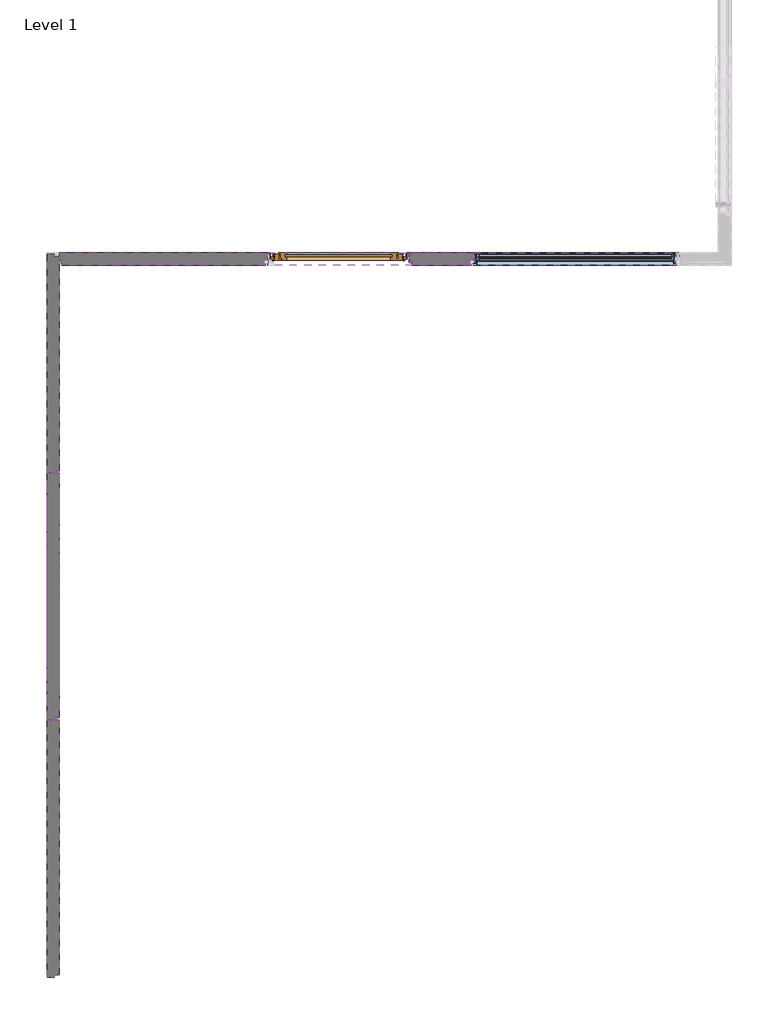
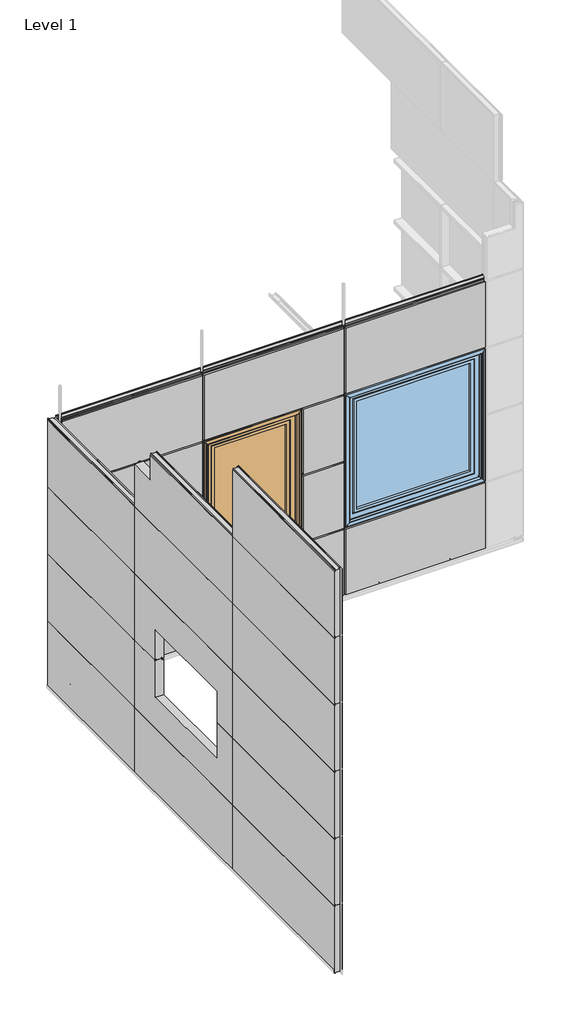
# One storey, part 1 of 8: 28 plates, 22 members, 1 door, 1 window.
"""IFC4 building model written with IfcOpenShell, lengths in millimetres."""

from ifc_helpers import new_model, si_unit, point, frame, frame_2d, origin, place, context, project, spatial, polyline, circle_curve, trimmed, segment, composite_curve, outline, extrude, faceted_brep, transform, mapped, element, save
from components import window_2f2466e1, window_c7373859, window_996190e2, rectangular_mullion_dd22ac08, qb_typ_1_c7bdcc42, qb_typ_1_3ef9bbf9, qb_typ_2_6b1fd04e, qb_typ_2_98d51a64, qb_typ_3_9fe7e425, qb_typ_3_735e8f04, qb_typ_3_2d20ebb0, tr_empty_empty_edf3b101, window_7dbde55a, window_ffd93646, window_a3d85fab, window_884a3d52

model = new_model("IFC4")

# Units and contexts
model_context = context("Model", 3, world=origin())
ifc_project = project(units=[si_unit("LENGTHUNIT", "METRE", prefix="MILLI")], contexts=[model_context])

# Site, building, storey
site = spatial("IfcSite", under=ifc_project)
building = spatial("IfcBuilding", under=site)
storey = spatial("IfcBuildingStorey", under=building, Name="Level 1", Elevation=0.0)

# Door
placement = place(None, origin())
window_shape = window_2f2466e1(model_context)
window_2_shape = window_c7373859(model_context)
window_3_shape = window_996190e2(model_context)
element("IfcDoor", 1, ObjectType="QO-H-QB_Door Module : Window", at=placement, inside=storey, context=model_context, shape_type="MappedRepresentation", body=[
    mapped(window_shape, transform((-3815.5000003, -12000.1, 150.0), x_axis=(-1.0, 0.0, 0.0), y_axis=(0.0, -1.0, 0.0), z_axis=(0.0, 0.0, 1.0))),
    mapped(window_2_shape, transform((-3815.5000003, -12000.1, 150.0), x_axis=(-1.0, 0.0, 0.0), y_axis=(0.0, -1.0, 0.0), z_axis=(0.0, 0.0, 1.0))),
    mapped(window_3_shape, transform((-3815.5000003, -12000.1, 150.0), x_axis=(-1.0, 0.0, 0.0), y_axis=(0.0, -1.0, 0.0), z_axis=(0.0, 0.0, 1.0))),
])

# Members
element("IfcMember", 2, ObjectType="Rectangular Mullion : QO-H-01_01 Joint", at=placement, inside=storey, context=model_context, shape_type="SweptSolid", body=[
    extrude(outline(composite_curve([segment(polyline([(-6563.6160807, -14008.6475876), (-6563.6160807, -14010.1626133), (-6564.9759409, -14008.3497844), (-6565.7759409, -14008.3497844), (-6565.7759409, -14010.3513097), (-6563.3171532, -14010.3513097), (-6563.3171532, -14009.2830771), (-6555.5392088, -14009.2830771)]), True, "CONTINUOUS"), segment(trimmed(circle_curve(frame_2d((-6555.5150145, -14009.7824538)), 0.4999625), [point((-6555.5392088, -14009.2830771))], [point((-6555.0150521, -14009.7824538))], False, "CARTESIAN"), True, "CONTINUOUS"), segment(polyline([(-6555.0150521, -14009.7824538), (-6555.0150521, -14020.4962599), (-6565.1903782, -14020.4962599)]), True, "CONTINUOUS"), segment(trimmed(circle_curve(frame_2d((-6565.1903782, -14019.8962599)), 0.6), [point((-6565.1903782, -14020.4962599))], [point((-6565.7903782, -14019.8962599))], False, "CARTESIAN"), True, "CONTINUOUS"), segment(polyline([(-6565.7903782, -14019.8962599), (-6565.7903782, -14014.3577362), (-6568.6058209, -14014.3577362), (-6568.6058209, -14016.9563372), (-6572.8493824, -14015.4175879), (-6569.3004499, -14012.3943655), (-6569.3004499, -14003.6008097), (-6572.8493824, -14000.5775874), (-6568.6058209, -13999.038838), (-6568.6058209, -14001.637439), (-6565.7903782, -14001.637439), (-6565.7903782, -13996.0989153)]), True, "CONTINUOUS"), segment(trimmed(circle_curve(frame_2d((-6565.1903782, -13996.0989153)), 0.6), [point((-6565.7903782, -13996.0989153))], [point((-6565.1903782, -13995.4989153))], False, "CARTESIAN"), True, "CONTINUOUS"), segment(polyline([(-6565.1903782, -13995.4989153), (-6555.0150521, -13995.4989153), (-6555.0150521, -14006.2127214)]), True, "CONTINUOUS"), segment(trimmed(circle_curve(frame_2d((-6555.5150145, -14006.2127214)), 0.4999625), [point((-6555.0150521, -14006.2127214))], [point((-6555.5392088, -14006.7120981))], False, "CARTESIAN"), True, "CONTINUOUS"), segment(polyline([(-6555.5392088, -14006.7120981), (-6563.3171532, -14006.7120981), (-6563.3171532, -14005.6438655), (-6565.7759409, -14005.6438655), (-6565.7759409, -14007.6453908), (-6564.9759409, -14007.6453908), (-6563.6160807, -14005.8325619), (-6563.6160807, -14007.3475876), (-6554.5027714, -14007.3475876), (-6554.5027714, -13999.6794739), (-6553.5783624, -13998.1474985)]), True, "CONTINUOUS"), segment(trimmed(circle_curve(frame_2d((-6553.3129397, -13998.3076572)), 0.31), [point((-6553.5783624, -13998.1474985))], [point((-6553.0029397, -13998.3076572))], False, "CARTESIAN"), True, "CONTINUOUS"), segment(polyline([(-6553.0029397, -13998.3076572), (-6553.0029397, -14017.6876801)]), True, "CONTINUOUS"), segment(trimmed(circle_curve(frame_2d((-6553.3129397, -14017.6876801)), 0.31), [point((-6553.0029397, -14017.6876801))], [point((-6553.5783624, -14017.8478388))], False, "CARTESIAN"), True, "CONTINUOUS"), segment(polyline([(-6553.5783624, -14017.8478388), (-6554.5027714, -14016.3158634), (-6554.5027714, -14008.6475876), (-6563.6160807, -14008.6475876)]), True, "CONTINUOUS")], self_intersect=False)), frame((0.0, 0.0, 4150.0), z_axis=(0.0, 0.0, 1.0), x_axis=(1.0, 0.0, 0.0)), (0.0, 0.0, 1.0), 620.0),
])
rectangular_mullion_shape = rectangular_mullion_dd22ac08(model_context)
element("IfcMember", 3, ObjectType="Rectangular Mullion : QO-H-01_01 Joint", at=placement, inside=storey, context=model_context, shape_type="MappedRepresentation", body=[
    mapped(rectangular_mullion_shape, transform((-6529.0000002, -14008.0, 150.0), x_axis=(0.0, -1.0, 0.0), y_axis=(-1.0, 0.0, 0.0), z_axis=(0.0, 0.0, -1.0))),
])
element("IfcMember", 4, ObjectType="Rectangular Mullion : QO-H-01_01 Joint", at=placement, inside=storey, context=model_context, shape_type="MappedRepresentation", body=[
    mapped(rectangular_mullion_shape, transform((-4515.5000003, -12000.1, 150.0), x_axis=(-1.0, 0.0, 0.0), y_axis=(0.0, 1.0, 0.0), z_axis=(0.0, 0.0, -1.0))),
])
element("IfcMember", 5, ObjectType="Rectangular Mullion : QO-H-01_01 Joint", at=placement, inside=storey, context=model_context, shape_type="MappedRepresentation", body=[
    mapped(rectangular_mullion_shape, transform((-2515.5000003, -12000.1, 150.0), x_axis=(-1.0, 0.0, 0.0), y_axis=(0.0, 1.0, 0.0), z_axis=(0.0, 0.0, -1.0))),
])
element("IfcMember", 6, ObjectType="Rectangular Mullion : QO-H-01_01 Joint", at=placement, inside=storey, context=model_context, shape_type="MappedRepresentation", body=[
    mapped(rectangular_mullion_shape, transform((-3115.5000003, -12000.1, 150.0), x_axis=(-1.0, 0.0, 0.0), y_axis=(0.0, 1.0, 0.0), z_axis=(0.0, 0.0, -1.0))),
])
element("IfcMember", 7, ObjectType="Rectangular Mullion : QO-H-01_01 Joint", at=placement, inside=storey, context=model_context, shape_type="MappedRepresentation", body=[
    mapped(rectangular_mullion_shape, transform((-6529.0000002, -16405.0, 150.0), x_axis=(0.0, -1.0, 0.0), y_axis=(-1.0, 0.0, 0.0), z_axis=(0.0, 0.0, -1.0))),
])
element("IfcMember", 8, ObjectType="Rectangular Mullion : QO-H-01_01 Joint", at=placement, inside=storey, context=model_context, shape_type="MappedRepresentation", body=[
    mapped(rectangular_mullion_shape, transform((-6529.0000002, -14008.0, 1150.0), x_axis=(0.0, -1.0, 0.0), y_axis=(-1.0, 0.0, 0.0), z_axis=(0.0, 0.0, -1.0))),
])
element("IfcMember", 9, ObjectType="Rectangular Mullion : QO-H-01_01 Joint", at=placement, inside=storey, context=model_context, shape_type="MappedRepresentation", body=[
    mapped(rectangular_mullion_shape, transform((-6529.0000002, -14008.0, 2150.0), x_axis=(0.0, -1.0, 0.0), y_axis=(-1.0, 0.0, 0.0), z_axis=(0.0, 0.0, -1.0))),
])
element("IfcMember", 10, ObjectType="Rectangular Mullion : QO-H-01_01 Joint", at=placement, inside=storey, context=model_context, shape_type="MappedRepresentation", body=[
    mapped(rectangular_mullion_shape, transform((-6529.0000002, -14008.0, 3150.0), x_axis=(0.0, -1.0, 0.0), y_axis=(-1.0, 0.0, 0.0), z_axis=(0.0, 0.0, -1.0))),
])
element("IfcMember", 11, ObjectType="Rectangular Mullion : QO-H-01_01 Joint", at=placement, inside=storey, context=model_context, shape_type="MappedRepresentation", body=[
    mapped(rectangular_mullion_shape, transform((-4515.5000003, -12000.1, 1150.0), x_axis=(-1.0, 0.0, 0.0), y_axis=(0.0, 1.0, 0.0), z_axis=(0.0, 0.0, -1.0))),
])
element("IfcMember", 12, ObjectType="Rectangular Mullion : QO-H-01_01 Joint", at=placement, inside=storey, context=model_context, shape_type="MappedRepresentation", body=[
    mapped(rectangular_mullion_shape, transform((-4515.5000003, -12000.1, 2150.0), x_axis=(-1.0, 0.0, 0.0), y_axis=(0.0, 1.0, 0.0), z_axis=(0.0, 0.0, -1.0))),
])
element("IfcMember", 13, ObjectType="Rectangular Mullion : QO-H-01_01 Joint", at=placement, inside=storey, context=model_context, shape_type="MappedRepresentation", body=[
    mapped(rectangular_mullion_shape, transform((-4515.5000003, -12000.1, 3150.0), x_axis=(-1.0, 0.0, 0.0), y_axis=(0.0, 1.0, 0.0), z_axis=(0.0, 0.0, -1.0))),
])
element("IfcMember", 14, ObjectType="Rectangular Mullion : QO-H-01_01 Joint", at=placement, inside=storey, context=model_context, shape_type="MappedRepresentation", body=[
    mapped(rectangular_mullion_shape, transform((-2515.5000003, -12000.1, 1150.0), x_axis=(-1.0, 0.0, 0.0), y_axis=(0.0, 1.0, 0.0), z_axis=(0.0, 0.0, -1.0))),
])
element("IfcMember", 15, ObjectType="Rectangular Mullion : QO-H-01_01 Joint", at=placement, inside=storey, context=model_context, shape_type="MappedRepresentation", body=[
    mapped(rectangular_mullion_shape, transform((-2515.5000003, -12000.1, 2150.0), x_axis=(-1.0, 0.0, 0.0), y_axis=(0.0, 1.0, 0.0), z_axis=(0.0, 0.0, -1.0))),
])
element("IfcMember", 16, ObjectType="Rectangular Mullion : QO-H-01_01 Joint", at=placement, inside=storey, context=model_context, shape_type="MappedRepresentation", body=[
    mapped(rectangular_mullion_shape, transform((-2515.5000003, -12000.1, 3150.0), x_axis=(-1.0, 0.0, 0.0), y_axis=(0.0, 1.0, 0.0), z_axis=(0.0, 0.0, -1.0))),
])
element("IfcMember", 17, ObjectType="Rectangular Mullion : QO-H-01_01 Joint", at=placement, inside=storey, context=model_context, shape_type="MappedRepresentation", body=[
    mapped(rectangular_mullion_shape, transform((-3115.5000003, -12000.1, 1150.0), x_axis=(-1.0, 0.0, 0.0), y_axis=(0.0, 1.0, 0.0), z_axis=(0.0, 0.0, -1.0))),
])
element("IfcMember", 18, ObjectType="Rectangular Mullion : QO-H-01_01 Joint", at=placement, inside=storey, context=model_context, shape_type="MappedRepresentation", body=[
    mapped(rectangular_mullion_shape, transform((-6529.0000002, -16405.0, 1150.0), x_axis=(0.0, -1.0, 0.0), y_axis=(-1.0, 0.0, 0.0), z_axis=(0.0, 0.0, -1.0))),
])
element("IfcMember", 19, ObjectType="Rectangular Mullion : QO-H-01_01 Joint", at=placement, inside=storey, context=model_context, shape_type="MappedRepresentation", body=[
    mapped(rectangular_mullion_shape, transform((-6529.0000002, -16405.0, 2150.0), x_axis=(0.0, -1.0, 0.0), y_axis=(-1.0, 0.0, 0.0), z_axis=(0.0, 0.0, -1.0))),
])
element("IfcMember", 20, ObjectType="Rectangular Mullion : QO-H-01_01 Joint", at=placement, inside=storey, context=model_context, shape_type="MappedRepresentation", body=[
    mapped(rectangular_mullion_shape, transform((-6529.0000002, -16405.0, 3150.0), x_axis=(0.0, -1.0, 0.0), y_axis=(-1.0, 0.0, 0.0), z_axis=(0.0, 0.0, -1.0))),
])
element("IfcMember", 21, ObjectType="Rectangular Mullion : QO-H-01_01 Joint", at=placement, inside=storey, context=model_context, shape_type="MappedRepresentation", body=[
    mapped(rectangular_mullion_shape, transform((-6529.0000002, -16405.0, 4150.0), x_axis=(0.0, -1.0, 0.0), y_axis=(-1.0, 0.0, 0.0), z_axis=(0.0, 0.0, -1.0))),
])
element("IfcMember", 22, ObjectType="Rectangular Mullion : QO-H-01_01 Joint", at=placement, inside=storey, context=model_context, shape_type="MappedRepresentation", body=[
    mapped(rectangular_mullion_shape, transform((-3115.5000003, -12000.1, 2150.0), x_axis=(-1.0, 0.0, 0.0), y_axis=(0.0, 1.0, 0.0), z_axis=(0.0, 0.0, -1.0))),
])
element("IfcMember", 23, ObjectType="Rectangular Mullion : QO-H-01_01 Joint", at=placement, inside=storey, context=model_context, shape_type="MappedRepresentation", body=[
    mapped(rectangular_mullion_shape, transform((-6529.0000002, -16405.0, 5150.0), x_axis=(0.0, -1.0, 0.0), y_axis=(-1.0, 0.0, 0.0), z_axis=(0.0, 0.0, -1.0))),
])

# Plates
qb_typ_1_shape = qb_typ_1_c7bdcc42(model_context)
element("IfcPlate", 24, ObjectType="TR_C_H_QBISS_Panel : QB TYP 1", at=placement, inside=storey, context=model_context, shape_type="MappedRepresentation", body=[
    mapped(qb_typ_1_shape, transform((-1516.2500002, -12000.1, 150.0), x_axis=(-1.0, 0.0, 0.0), y_axis=(0.0, -1.0, 0.0), z_axis=(0.0, 0.0, 1.0))),
])
element("IfcPlate", 25, ObjectType="TR_C_H_QBISS_Panel : QB TYP 1", at=placement, inside=storey, context=model_context, shape_type="MappedRepresentation", body=[
    mapped(qb_typ_1_shape, transform((-1516.2500002, -12000.1, 3150.0), x_axis=(-1.0, 0.0, 0.0), y_axis=(0.0, -1.0, 0.0), z_axis=(0.0, 0.0, 1.0))),
])
qb_typ_1_2_shape = qb_typ_1_3ef9bbf9(model_context)
element("IfcPlate", 26, ObjectType="TR_C_H_QBISS_Panel : QB TYP 1", at=placement, inside=storey, context=model_context, shape_type="MappedRepresentation", body=[
    mapped(qb_typ_1_2_shape, transform((-3515.5000003, -12000.1, 3150.0), x_axis=(-1.0, 0.0, 0.0), y_axis=(0.0, -1.0, 0.0), z_axis=(0.0, 0.0, 1.0))),
])
element("IfcPlate", 27, ObjectType="TR_C_H_QBISS_Panel : QB TYP 2", at=placement, inside=storey, context=model_context, shape_type="SolidModel", body=[
    extrude(outline(polyline([(2144.5, -6553.0000002), (2144.5, -6554.4998318), (2137.7023593, -6554.4998318), (2137.7023593, -6556.9998294), (2138.5023593, -6556.9998294), (2138.5023593, -6557.799843), (2130.5023028, -6557.799843), (2130.5023028, -6556.9998294), (2131.3023028, -6556.9998294), (2131.3023028, -6554.4998318), (2124.5, -6554.4998318), (2124.5, -6553.0000002), (2144.5, -6553.0000002)])), frame((0.0, -16392.3, 0.0), z_axis=(0.0, 1.0, 0.0), x_axis=(0.0, 0.0, 1.0)), (0.0, 0.0, 1.0), 354.4),
    extrude(outline(polyline([(2144.5, -6553.0000002), (2144.5, -6554.4998318), (2137.7023593, -6554.4998318), (2137.7023593, -6556.9998294), (2138.5023593, -6556.9998294), (2138.5023593, -6557.799843), (2130.5023028, -6557.799843), (2130.5023028, -6556.9998294), (2131.3023028, -6556.9998294), (2131.3023028, -6554.4998318), (2124.5, -6554.4998318), (2124.5, -6553.0000002), (2144.5, -6553.0000002)])), frame((0.0, -14527.9, 0.0), z_axis=(0.0, 1.0, 0.0), x_axis=(0.0, 0.0, 1.0)), (0.0, 0.0, 1.0), 507.2),
    faceted_brep([(-6637.0000002, -16417.4, 2150.0), (-6637.0000002, -16417.4, 2160.0), (-6643.0000002, -16417.4, 2160.0), (-6643.0000002, -16417.4, 2142.0), (-6649.0000002, -16417.4, 2136.0), (-6649.0000002, -16417.4, 1142.0), (-6643.0000002, -16417.4, 1142.0), (-6643.0000002, -16417.4, 1163.0), (-6637.0000002, -16417.4, 1163.0), (-6637.0000002, -16417.4, 1150.0), (-6578.0000002, -16417.4, 1150.0), (-6578.0000002, -16417.4, 2150.0), (-6637.0000002, -14020.5, 1150.0), (-6637.0000002, -14020.5, 1163.0), (-6643.0000002, -14020.5, 1163.0), (-6643.0000002, -14020.5, 1142.0), (-6649.0000002, -14020.5, 1142.0), (-6649.0000002, -14020.5, 2136.0), (-6643.0000002, -14020.5, 2142.0), (-6643.0000002, -14020.5, 2160.0), (-6637.0000002, -14020.5, 2160.0), (-6637.0000002, -14020.5, 2150.0), (-6578.0000002, -14020.5, 2150.0), (-6578.0000002, -14020.5, 1150.0), (-6578.0000002, -14020.7, 1150.0), (-6568.0000002, -14020.7, 1150.0), (-6568.0000002, -16392.3, 1150.0), (-6578.0000002, -16392.3, 1150.0), (-6568.0000002, -14020.7, 1163.0), (-6568.0000002, -16392.3, 1163.0), (-6558.0000002, -14020.7, 1163.0), (-6558.0000002, -16392.3, 1163.0), (-6558.0000002, -14020.7, 1146.0), (-6558.0000002, -16392.3, 1146.0), (-6529.0000002, -14020.7, 1146.0), (-6529.0000002, -16392.3, 1146.0), (-6558.0000002, -16392.3, 2123.0), (-6529.0000002, -16392.3, 2123.0), (-6529.0000002, -16037.9, 2123.0), (-6558.0000002, -16037.9, 2123.0), (-6558.0000002, -16392.3, 2160.0), (-6558.0000002, -16037.9, 2160.0), (-6568.0000002, -16392.3, 2160.0), (-6568.0000002, -16037.9, 2160.0), (-6568.0000002, -16392.3, 2150.0), (-6568.0000002, -16037.9, 2150.0), (-6578.0000002, -16392.3, 2150.0), (-6637.0000002, -16037.9, 2150.0), (-6637.0000002, -16037.9, 2160.0), (-6643.0000002, -16037.9, 2160.0), (-6643.0000002, -16037.9, 2142.0), (-6649.0000002, -16037.9, 2136.0), (-6649.0000002, -16082.9, 2136.0), (-6649.0000002, -16037.9, 1595.0), (-6649.0000002, -14527.9, 1595.0), (-6649.0000002, -14527.9, 2136.0), (-6649.0000002, -14482.9, 2136.0), (-6578.0000002, -14020.7, 2150.0), (-6568.0000002, -14020.7, 2150.0), (-6568.0000002, -14020.7, 2160.0), (-6558.0000002, -14020.7, 2160.0), (-6558.0000002, -14020.7, 2123.0), (-6529.0000002, -14020.7, 2123.0), (-6529.0000002, -14527.9, 2123.0), (-6529.0000002, -14527.9, 1595.0), (-6529.0000002, -16037.9, 1595.0), (-6558.0000002, -14527.9, 2123.0), (-6558.0000002, -14527.9, 2160.0), (-6568.0000002, -14527.9, 2160.0), (-6568.0000002, -14527.9, 2150.0), (-6637.0000002, -14527.9, 2150.0), (-6637.0000002, -14527.9, 2160.0), (-6643.0000002, -14527.9, 2160.0), (-6643.0000002, -14527.9, 2142.0)], [[[0, 1, 2, 3, 4, 5, 6, 7, 8, 9, 10, 11]], [[12, 13, 14, 15, 16, 17, 18, 19, 20, 21, 22, 23]], [[10, 9, 12, 23, 24, 25, 26, 27]], [[26, 25, 28, 29]], [[29, 28, 30, 31]], [[31, 30, 32, 33]], [[33, 32, 34, 35]], [[36, 37, 38, 39]], [[40, 36, 39, 41]], [[42, 40, 41, 43]], [[44, 42, 43, 45]], [[0, 11, 46, 44, 45, 47]], [[1, 0, 47, 48]], [[2, 1, 48, 49]], [[3, 2, 49, 50]], [[4, 3, 50, 51, 52]], [[5, 4, 52, 51, 53, 54, 55, 56, 17, 16]], [[6, 5, 16, 15]], [[7, 6, 15, 14]], [[8, 7, 14, 13]], [[9, 8, 13, 12]], [[23, 22, 57, 24]], [[25, 24, 57, 58, 59, 60, 61, 62, 34, 32, 30, 28]], [[27, 26, 29, 31, 33, 35, 37, 36, 40, 42, 44, 46]], [[11, 10, 27, 46]], [[35, 34, 62, 63, 64, 65, 38, 37]], [[65, 53, 51, 50, 49, 48, 47, 45, 43, 41, 39, 38]], [[53, 65, 64, 54]], [[54, 64, 63, 66, 67, 68, 69, 70, 71, 72, 73, 55]], [[18, 17, 56, 55, 73]], [[62, 61, 66, 63]], [[61, 60, 67, 66]], [[60, 59, 68, 67]], [[59, 58, 69, 68]], [[22, 21, 70, 69, 58, 57]], [[21, 20, 71, 70]], [[20, 19, 72, 71]], [[19, 18, 73, 72]]]),
    extrude(outline(polyline([(-6578.0000002, -13995.5), (-6573.0000002, -13995.5), (-6573.0000002, -13996.3), (-6577.2000002, -13996.3), (-6577.2000002, -14020.7), (-6578.0000002, -14020.7), (-6578.0000002, -13995.5)])), frame((0.0, 0.0, 1204.0), z_axis=(0.0, 0.0, 1.0), x_axis=(1.0, 0.0, 0.0)), (0.0, 0.0, 1.0), 862.0),
])
element("IfcPlate", 28, ObjectType="TR_C_H_QBISS_Panel : QB TYP 2", at=placement, inside=storey, context=model_context, shape_type="SolidModel", body=[
    extrude(outline(polyline([(3144.5, -6553.0000002), (3144.5, -6554.4998318), (3137.7023593, -6554.4998318), (3137.7023593, -6556.9998294), (3138.5023593, -6556.9998294), (3138.5023593, -6557.799843), (3130.5023028, -6557.799843), (3130.5023028, -6556.9998294), (3131.3023028, -6556.9998294), (3131.3023028, -6554.4998318), (3124.5, -6554.4998318), (3124.5, -6553.0000002), (3144.5, -6553.0000002)])), frame((0.0, -16392.3, 0.0), z_axis=(0.0, 1.0, 0.0), x_axis=(0.0, 0.0, 1.0)), (0.0, 0.0, 1.0), 2371.6),
    faceted_brep([(-6637.0000002, -16417.4, 3150.0), (-6637.0000002, -16417.4, 3160.0), (-6643.0000002, -16417.4, 3160.0), (-6643.0000002, -16417.4, 3142.0), (-6649.0000002, -16417.4, 3136.0), (-6649.0000002, -16417.4, 2142.0), (-6643.0000002, -16417.4, 2142.0), (-6643.0000002, -16417.4, 2163.0), (-6637.0000002, -16417.4, 2163.0), (-6637.0000002, -16417.4, 2150.0), (-6578.0000002, -16417.4, 2150.0), (-6578.0000002, -16417.4, 3150.0), (-6637.0000002, -14020.5, 2150.0), (-6637.0000002, -14020.5, 2163.0), (-6643.0000002, -14020.5, 2163.0), (-6643.0000002, -14020.5, 2142.0), (-6649.0000002, -14020.5, 2142.0), (-6649.0000002, -14020.5, 3136.0), (-6643.0000002, -14020.5, 3142.0), (-6643.0000002, -14020.5, 3160.0), (-6637.0000002, -14020.5, 3160.0), (-6637.0000002, -14020.5, 3150.0), (-6578.0000002, -14020.5, 3150.0), (-6578.0000002, -14020.5, 2150.0), (-6637.0000002, -16037.9, 2150.0), (-6568.0000002, -16037.9, 2150.0), (-6568.0000002, -16392.3, 2150.0), (-6578.0000002, -16392.3, 2150.0), (-6568.0000002, -16392.3, 2163.0), (-6568.0000002, -16037.9, 2163.0), (-6558.0000002, -16392.3, 2163.0), (-6558.0000002, -16037.9, 2163.0), (-6558.0000002, -16392.3, 2146.0), (-6558.0000002, -16037.9, 2146.0), (-6529.0000002, -16392.3, 2146.0), (-6529.0000002, -16037.9, 2146.0), (-6529.0000002, -16392.3, 3123.0), (-6529.0000002, -14020.7, 3123.0), (-6558.0000002, -14020.7, 3123.0), (-6558.0000002, -16392.3, 3123.0), (-6558.0000002, -14020.7, 3160.0), (-6558.0000002, -16392.3, 3160.0), (-6568.0000002, -14020.7, 3160.0), (-6568.0000002, -16392.3, 3160.0), (-6568.0000002, -14020.7, 3150.0), (-6568.0000002, -16392.3, 3150.0), (-6578.0000002, -16392.3, 3150.0), (-6578.0000002, -14020.7, 3150.0), (-6649.0000002, -14482.9, 2142.0), (-6649.0000002, -14527.9, 2142.0), (-6649.0000002, -14527.9, 2605.0), (-6649.0000002, -16037.9, 2605.0), (-6649.0000002, -16037.9, 2142.0), (-6649.0000002, -16082.9, 2142.0), (-6643.0000002, -16037.9, 2142.0), (-6643.0000002, -16037.9, 2163.0), (-6637.0000002, -16037.9, 2163.0), (-6578.0000002, -14020.7, 2150.0), (-6568.0000002, -14020.7, 2150.0), (-6529.0000002, -14020.7, 2146.0), (-6558.0000002, -14020.7, 2146.0), (-6558.0000002, -14020.7, 2163.0), (-6568.0000002, -14020.7, 2163.0), (-6568.0000002, -14527.9, 2150.0), (-6637.0000002, -14527.9, 2150.0), (-6568.0000002, -14527.9, 2163.0), (-6558.0000002, -14527.9, 2163.0), (-6558.0000002, -14527.9, 2146.0), (-6529.0000002, -14527.9, 2146.0), (-6529.0000002, -16037.9, 2605.0), (-6529.0000002, -14527.9, 2605.0), (-6643.0000002, -14527.9, 2142.0), (-6643.0000002, -14527.9, 2163.0), (-6637.0000002, -14527.9, 2163.0)], [[[0, 1, 2, 3, 4, 5, 6, 7, 8, 9, 10, 11]], [[12, 13, 14, 15, 16, 17, 18, 19, 20, 21, 22, 23]], [[10, 9, 24, 25, 26, 27]], [[28, 26, 25, 29]], [[30, 28, 29, 31]], [[32, 30, 31, 33]], [[34, 32, 33, 35]], [[36, 37, 38, 39]], [[39, 38, 40, 41]], [[41, 40, 42, 43]], [[43, 42, 44, 45]], [[0, 11, 46, 45, 44, 47, 22, 21]], [[1, 0, 21, 20]], [[2, 1, 20, 19]], [[3, 2, 19, 18]], [[4, 3, 18, 17]], [[5, 4, 17, 16, 48, 49, 50, 51, 52, 53]], [[6, 5, 53, 52, 54]], [[7, 6, 54, 55]], [[8, 7, 55, 56]], [[9, 8, 56, 24]], [[23, 22, 47, 57]], [[58, 57, 47, 44, 42, 40, 38, 37, 59, 60, 61, 62]], [[27, 26, 28, 30, 32, 34, 36, 39, 41, 43, 45, 46]], [[11, 10, 27, 46]], [[12, 23, 57, 58, 63, 64]], [[58, 62, 65, 63]], [[62, 61, 66, 65]], [[61, 60, 67, 66]], [[60, 59, 68, 67]], [[59, 37, 36, 34, 35, 69, 70, 68]], [[50, 70, 69, 51]], [[51, 69, 35, 33, 31, 29, 25, 24, 56, 55, 54, 52]], [[70, 50, 49, 71, 72, 73, 64, 63, 65, 66, 67, 68]], [[13, 12, 64, 73]], [[16, 15, 71, 49, 48]], [[15, 14, 72, 71]], [[14, 13, 73, 72]]]),
    extrude(outline(polyline([(-6578.0000002, -13995.5), (-6573.0000002, -13995.5), (-6573.0000002, -13996.3), (-6577.2000002, -13996.3), (-6577.2000002, -14020.7), (-6578.0000002, -14020.7), (-6578.0000002, -13995.5)])), frame((0.0, 0.0, 2204.0), z_axis=(0.0, 0.0, 1.0), x_axis=(1.0, 0.0, 0.0)), (0.0, 0.0, 1.0), 862.0),
])
element("IfcPlate", 29, ObjectType="TR_C_H_QBISS_Panel : QB TYP 2", at=placement, inside=storey, context=model_context, shape_type="SolidModel", body=[
    extrude(outline(polyline([(5144.5, -6553.0000002), (5144.5, -6554.4998318), (5137.7023593, -6554.4998318), (5137.7023593, -6556.9998294), (5138.5023593, -6556.9998294), (5138.5023593, -6557.799843), (5130.5023028, -6557.799843), (5130.5023028, -6556.9998294), (5131.3023028, -6556.9998294), (5131.3023028, -6554.4998318), (5124.5, -6554.4998318), (5124.5, -6553.0000002), (5144.5, -6553.0000002)])), frame((0.0, -16392.3, 0.0), z_axis=(0.0, 1.0, 0.0), x_axis=(0.0, 0.0, 1.0)), (0.0, 0.0, 1.0), 1987.3),
    faceted_brep([(-6637.0000002, -16417.4, 5150.0), (-6637.0000002, -16417.4, 5160.0), (-6643.0000002, -16417.4, 5160.0), (-6643.0000002, -16417.4, 5142.0), (-6649.0000002, -16417.4, 5136.0), (-6649.0000002, -16417.4, 4142.0), (-6643.0000002, -16417.4, 4142.0), (-6643.0000002, -16417.4, 4163.0), (-6637.0000002, -16417.4, 4163.0), (-6637.0000002, -16417.4, 4150.0), (-6578.0000002, -16417.4, 4150.0), (-6578.0000002, -16417.4, 5150.0), (-6637.0000002, -14020.5, 4150.0), (-6637.0000002, -14020.5, 4163.0), (-6643.0000002, -14020.5, 4163.0), (-6643.0000002, -14020.5, 4142.0), (-6649.0000002, -14020.5, 4142.0), (-6649.0000002, -14020.5, 4770.0), (-6578.0000002, -14020.5, 4770.0), (-6578.0000002, -14020.5, 4150.0), (-6578.0000002, -14020.7, 4150.0), (-6568.0000002, -14020.7, 4150.0), (-6568.0000002, -16392.3, 4150.0), (-6578.0000002, -16392.3, 4150.0), (-6568.0000002, -14020.7, 4163.0), (-6568.0000002, -16392.3, 4163.0), (-6558.0000002, -14020.7, 4163.0), (-6558.0000002, -16392.3, 4163.0), (-6558.0000002, -14020.7, 4146.0), (-6558.0000002, -16392.3, 4146.0), (-6529.0000002, -14020.7, 4146.0), (-6529.0000002, -16392.3, 4146.0), (-6529.0000002, -14020.7, 4770.0), (-6529.0000002, -14405.0, 4770.0), (-6529.0000002, -14405.0, 5123.0), (-6529.0000002, -16392.3, 5123.0), (-6558.0000002, -16392.3, 5123.0), (-6558.0000002, -14405.0, 5123.0), (-6558.0000002, -16392.3, 5160.0), (-6558.0000002, -14405.0, 5160.0), (-6568.0000002, -16392.3, 5160.0), (-6568.0000002, -14405.0, 5160.0), (-6568.0000002, -16392.3, 5150.0), (-6568.0000002, -14405.0, 5150.0), (-6578.0000002, -16392.3, 5150.0), (-6637.0000002, -14405.0, 5150.0), (-6637.0000002, -14405.0, 5160.0), (-6643.0000002, -14405.0, 5160.0), (-6643.0000002, -14405.0, 5142.0), (-6649.0000002, -14405.0, 5136.0), (-6649.0000002, -14405.0, 4770.0), (-6578.0000002, -14020.7, 4770.0)], [[[0, 1, 2, 3, 4, 5, 6, 7, 8, 9, 10, 11]], [[12, 13, 14, 15, 16, 17, 18, 19]], [[10, 9, 12, 19, 20, 21, 22, 23]], [[22, 21, 24, 25]], [[25, 24, 26, 27]], [[27, 26, 28, 29]], [[29, 28, 30, 31]], [[31, 30, 32, 33, 34, 35]], [[36, 35, 34, 37]], [[38, 36, 37, 39]], [[40, 38, 39, 41]], [[42, 40, 41, 43]], [[0, 11, 44, 42, 43, 45]], [[1, 0, 45, 46]], [[2, 1, 46, 47]], [[3, 2, 47, 48]], [[4, 3, 48, 49]], [[5, 4, 49, 50, 17, 16]], [[6, 5, 16, 15]], [[7, 6, 15, 14]], [[8, 7, 14, 13]], [[9, 8, 13, 12]], [[20, 19, 18, 51]], [[21, 20, 51, 32, 30, 28, 26, 24]], [[23, 22, 25, 27, 29, 31, 35, 36, 38, 40, 42, 44]], [[11, 10, 23, 44]], [[33, 50, 49, 48, 47, 46, 45, 43, 41, 39, 37, 34]], [[50, 33, 32, 51, 18, 17]]]),
    extrude(outline(polyline([(-6578.0000002, -13995.5), (-6573.0000002, -13995.5), (-6573.0000002, -13996.3), (-6577.2000002, -13996.3), (-6577.2000002, -14020.7), (-6578.0000002, -14020.7), (-6578.0000002, -13995.5)])), frame((0.0, 0.0, 4204.0), z_axis=(0.0, 0.0, 1.0), x_axis=(1.0, 0.0, 0.0)), (0.0, 0.0, 1.0), 566.0),
])
qb_typ_2_shape = qb_typ_2_6b1fd04e(model_context)
element("IfcPlate", 30, ObjectType="TR_C_H_QBISS_Panel : QB TYP 2", at=placement, inside=storey, context=model_context, shape_type="MappedRepresentation", body=[
    mapped(qb_typ_2_shape, transform((-6529.0000002, -15206.5, 150.0), x_axis=(0.0, -1.0, 0.0), y_axis=(1.0, 0.0, 0.0), z_axis=(0.0, 0.0, 1.0))),
])
element("IfcPlate", 31, ObjectType="TR_C_H_QBISS_Panel : QB TYP 2", at=placement, inside=storey, context=model_context, shape_type="MappedRepresentation", body=[
    mapped(qb_typ_2_shape, transform((-6529.0000002, -15206.5, 3150.0), x_axis=(0.0, -1.0, 0.0), y_axis=(1.0, 0.0, 0.0), z_axis=(0.0, 0.0, 1.0))),
])
qb_typ_2_2_shape = qb_typ_2_98d51a64(model_context)
element("IfcPlate", 32, ObjectType="TR_C_H_QBISS_Panel : QB TYP 2", at=placement, inside=storey, context=model_context, shape_type="MappedRepresentation", body=[
    mapped(qb_typ_2_2_shape, transform((-6529.0000002, -17655.0, 150.0), x_axis=(0.0, -1.0, 0.0), y_axis=(1.0, 0.0, 0.0), z_axis=(0.0, 0.0, 1.0))),
])
element("IfcPlate", 33, ObjectType="TR_C_H_QBISS_Panel : QB TYP 2", at=placement, inside=storey, context=model_context, shape_type="MappedRepresentation", body=[
    mapped(qb_typ_2_2_shape, transform((-6529.0000002, -17655.0, 1150.0), x_axis=(0.0, -1.0, 0.0), y_axis=(1.0, 0.0, 0.0), z_axis=(0.0, 0.0, 1.0))),
])
element("IfcPlate", 34, ObjectType="TR_C_H_QBISS_Panel : QB TYP 2", at=placement, inside=storey, context=model_context, shape_type="MappedRepresentation", body=[
    mapped(qb_typ_2_2_shape, transform((-6529.0000002, -17655.0, 2150.0), x_axis=(0.0, -1.0, 0.0), y_axis=(1.0, 0.0, 0.0), z_axis=(0.0, 0.0, 1.0))),
])
element("IfcPlate", 35, ObjectType="TR_C_H_QBISS_Panel : QB TYP 2", at=placement, inside=storey, context=model_context, shape_type="MappedRepresentation", body=[
    mapped(qb_typ_2_2_shape, transform((-6529.0000002, -17655.0, 3150.0), x_axis=(0.0, -1.0, 0.0), y_axis=(1.0, 0.0, 0.0), z_axis=(0.0, 0.0, 1.0))),
])
element("IfcPlate", 36, ObjectType="TR_C_H_QBISS_Panel : QB TYP 2", at=placement, inside=storey, context=model_context, shape_type="MappedRepresentation", body=[
    mapped(qb_typ_2_2_shape, transform((-6529.0000002, -17655.0, 4150.0), x_axis=(0.0, -1.0, 0.0), y_axis=(1.0, 0.0, 0.0), z_axis=(0.0, 0.0, 1.0))),
])
element("IfcPlate", 37, ObjectType="TR_C_H_QBISS_Panel : QB TYP 2", at=placement, inside=storey, context=model_context, shape_type="MappedRepresentation", body=[
    mapped(qb_typ_2_2_shape, transform((-6529.0000002, -17655.0, 5150.0), x_axis=(0.0, -1.0, 0.0), y_axis=(1.0, 0.0, 0.0), z_axis=(0.0, 0.0, 1.0))),
])
qb_typ_3_shape = qb_typ_3_9fe7e425(model_context)
element("IfcPlate", 38, ObjectType="TR_C_H_QBISS_Panel : QB TYP 3", at=placement, inside=storey, context=model_context, shape_type="MappedRepresentation", body=[
    mapped(qb_typ_3_shape, transform((-6529.0000002, -12956.5, 150.0), x_axis=(0.0, -1.0, 0.0), y_axis=(1.0, 0.0, 0.0), z_axis=(0.0, 0.0, 1.0))),
])
element("IfcPlate", 39, ObjectType="TR_C_H_QBISS_Panel : QB TYP 3", at=placement, inside=storey, context=model_context, shape_type="MappedRepresentation", body=[
    mapped(qb_typ_3_shape, transform((-6529.0000002, -12956.5, 1150.0), x_axis=(0.0, -1.0, 0.0), y_axis=(1.0, 0.0, 0.0), z_axis=(0.0, 0.0, 1.0))),
])
element("IfcPlate", 40, ObjectType="TR_C_H_QBISS_Panel : QB TYP 3", at=placement, inside=storey, context=model_context, shape_type="MappedRepresentation", body=[
    mapped(qb_typ_3_shape, transform((-6529.0000002, -12956.5, 2150.0), x_axis=(0.0, -1.0, 0.0), y_axis=(1.0, 0.0, 0.0), z_axis=(0.0, 0.0, 1.0))),
])
element("IfcPlate", 41, ObjectType="TR_C_H_QBISS_Panel : QB TYP 3", at=placement, inside=storey, context=model_context, shape_type="MappedRepresentation", body=[
    mapped(qb_typ_3_shape, transform((-6529.0000002, -12956.5, 3150.0), x_axis=(0.0, -1.0, 0.0), y_axis=(1.0, 0.0, 0.0), z_axis=(0.0, 0.0, 1.0))),
])
qb_typ_3_2_shape = qb_typ_3_735e8f04(model_context)
element("IfcPlate", 42, ObjectType="TR_C_H_QBISS_Panel : QB TYP 3", at=placement, inside=storey, context=model_context, shape_type="MappedRepresentation", body=[
    mapped(qb_typ_3_2_shape, transform((-2815.5000003, -12000.1, 150.0), x_axis=(-1.0, 0.0, 0.0), y_axis=(0.0, -1.0, 0.0), z_axis=(0.0, 0.0, 1.0))),
])
element("IfcPlate", 43, ObjectType="TR_C_H_QBISS_Panel : QB TYP 3", at=placement, inside=storey, context=model_context, shape_type="MappedRepresentation", body=[
    mapped(qb_typ_3_2_shape, transform((-2815.5000003, -12000.1, 1150.0), x_axis=(-1.0, 0.0, 0.0), y_axis=(0.0, -1.0, 0.0), z_axis=(0.0, 0.0, 1.0))),
])
element("IfcPlate", 44, ObjectType="TR_C_H_QBISS_Panel : QB TYP 3", at=placement, inside=storey, context=model_context, shape_type="MappedRepresentation", body=[
    mapped(qb_typ_3_2_shape, transform((-2815.5000003, -12000.1, 2150.0), x_axis=(-1.0, 0.0, 0.0), y_axis=(0.0, -1.0, 0.0), z_axis=(0.0, 0.0, 1.0))),
])
qb_typ_3_3_shape = qb_typ_3_2d20ebb0(model_context)
element("IfcPlate", 45, ObjectType="TR_C_H_QBISS_Panel : QB TYP 3", at=placement, inside=storey, context=model_context, shape_type="MappedRepresentation", body=[
    mapped(qb_typ_3_3_shape, transform((-5516.0000002, -12000.1, 150.0), x_axis=(-1.0, 0.0, 0.0), y_axis=(0.0, -1.0, 0.0), z_axis=(0.0, 0.0, 1.0))),
])
element("IfcPlate", 46, ObjectType="TR_C_H_QBISS_Panel : QB TYP 3", at=placement, inside=storey, context=model_context, shape_type="MappedRepresentation", body=[
    mapped(qb_typ_3_3_shape, transform((-5516.0000002, -12000.1, 1150.0), x_axis=(-1.0, 0.0, 0.0), y_axis=(0.0, -1.0, 0.0), z_axis=(0.0, 0.0, 1.0))),
])
element("IfcPlate", 47, ObjectType="TR_C_H_QBISS_Panel : QB TYP 3", at=placement, inside=storey, context=model_context, shape_type="MappedRepresentation", body=[
    mapped(qb_typ_3_3_shape, transform((-5516.0000002, -12000.1, 2150.0), x_axis=(-1.0, 0.0, 0.0), y_axis=(0.0, -1.0, 0.0), z_axis=(0.0, 0.0, 1.0))),
])
element("IfcPlate", 48, ObjectType="TR_C_H_QBISS_Panel : QB TYP 3", at=placement, inside=storey, context=model_context, shape_type="MappedRepresentation", body=[
    mapped(qb_typ_3_3_shape, transform((-5516.0000002, -12000.1, 3150.0), x_axis=(-1.0, 0.0, 0.0), y_axis=(0.0, -1.0, 0.0), z_axis=(0.0, 0.0, 1.0))),
])
tr_empty_empty_shape = tr_empty_empty_edf3b101(model_context)
element("IfcPlate", 49, ObjectType="TR_EMPTY : EMPTY", at=placement, inside=storey, context=model_context, shape_type="MappedRepresentation", body=[
    mapped(tr_empty_empty_shape, transform((-258.5, -12000.1, 150.0), x_axis=(-1.0, 0.0, 0.0), y_axis=(0.0, -1.0, 0.0), z_axis=(0.0, 0.0, 1.0))),
])
element("IfcPlate", 50, ObjectType="TR_EMPTY : EMPTY", at=placement, inside=storey, context=model_context, shape_type="MappedRepresentation", body=[
    mapped(tr_empty_empty_shape, transform((-258.5, -12000.1, 1150.0), x_axis=(-1.0, 0.0, 0.0), y_axis=(0.0, -1.0, 0.0), z_axis=(0.0, 0.0, 1.0))),
])
element("IfcPlate", 51, ObjectType="TR_EMPTY : EMPTY", at=placement, inside=storey, context=model_context, shape_type="MappedRepresentation", body=[
    mapped(tr_empty_empty_shape, transform((-258.5, -12000.1, 2150.0), x_axis=(-1.0, 0.0, 0.0), y_axis=(0.0, -1.0, 0.0), z_axis=(0.0, 0.0, 1.0))),
])

# Window
window_4_shape = window_7dbde55a(model_context)
window_5_shape = window_ffd93646(model_context)
window_6_shape = window_a3d85fab(model_context)
window_7_shape = window_884a3d52(model_context)
element("IfcWindow", 52, ObjectType="QO-H-QBISS_Window Module : Window", at=placement, inside=storey, context=model_context, shape_type="MappedRepresentation", body=[
    mapped(window_4_shape, transform((-1516.2500002, -12000.1, 1150.0), x_axis=(-1.0, 0.0, 0.0), y_axis=(0.0, -1.0, 0.0), z_axis=(0.0, 0.0, 1.0))),
    mapped(window_5_shape, transform((-1516.2500002, -12000.1, 1150.0), x_axis=(-1.0, 0.0, 0.0), y_axis=(0.0, -1.0, 0.0), z_axis=(0.0, 0.0, 1.0))),
    mapped(window_6_shape, transform((-1516.2500002, -12000.1, 1150.0), x_axis=(-1.0, 0.0, 0.0), y_axis=(0.0, -1.0, 0.0), z_axis=(0.0, 0.0, 1.0))),
    mapped(window_7_shape, transform((-1516.2500002, -12000.1, 1150.0), x_axis=(-1.0, 0.0, 0.0), y_axis=(0.0, -1.0, 0.0), z_axis=(0.0, 0.0, 1.0))),
])

save(model, "model.ifc")
